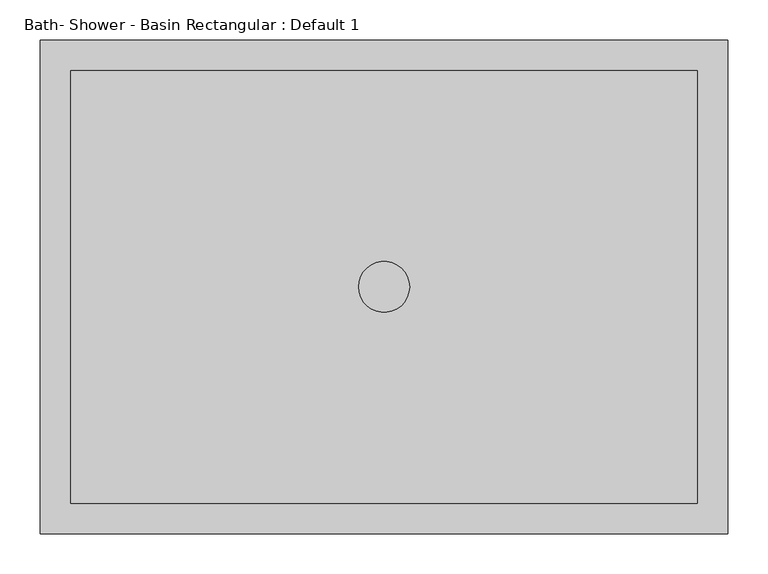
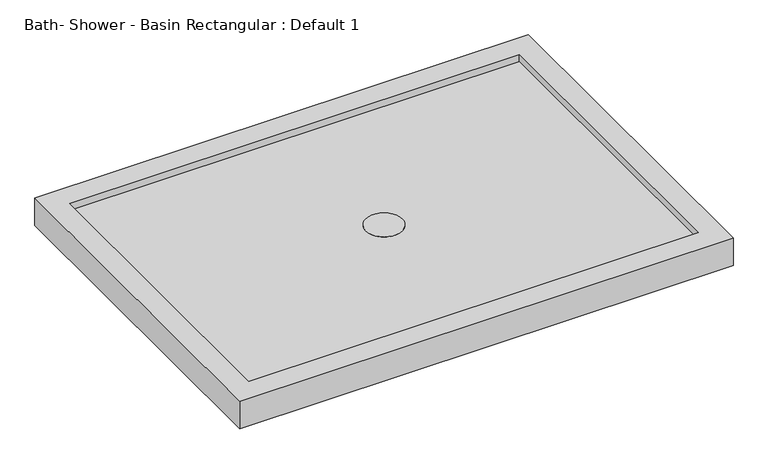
"""IFC4 building model written with IfcOpenShell, lengths in millimetres: flow terminal geometry, Bath- Shower - Basin Rectangular : Default 1."""

from ifc_helpers import new_model, si_unit, point, frame_2d, origin, origin_with_axes, place, context, project, spatial, circle_curve, trimmed, segment, composite_curve, outline, extrude, faceted_brep, source, transform, mapped, element, save


def bath_shower_basin_rectangular_default_1_810ac732(model_context):
    return source(origin(), model_context, "Body", "SolidModel", [
        extrude(outline(composite_curve([segment(trimmed(circle_curve(frame_2d((0.1, 0.15)), 31.75), [point((-31.65, 0.15))], [point((31.85, 0.15))], False, "CARTESIAN"), True, "CONTINUOUS"), segment(trimmed(circle_curve(frame_2d((0.1, 0.15)), 31.75), [point((31.85, 0.15))], [point((-31.65, 0.15))], False, "CARTESIAN"), True, "CONTINUOUS")], self_intersect=False)), origin_with_axes(), (0.0, 0.0, 1.0), 38.1),
        faceted_brep([(428.625, 307.975, 50.8), (-428.625, 307.975, 50.8), (-428.625, -307.975, 50.8), (428.625, -307.975, 50.8), (-390.525, 269.875, 50.8), (390.525, 269.875, 50.8), (390.525, -269.875, 50.8), (-390.525, -269.875, 50.8), (428.625, 307.975, 0.0), (428.625, -307.975, 0.0), (-428.625, -307.975, 0.0), (-428.625, 307.975, 0.0), (390.525, 269.875, 38.1), (-390.525, 269.875, 38.1), (-390.525, -269.875, 38.1), (390.525, -269.875, 38.1)], [[[0, 1, 2, 3], [4, 5, 6, 7]], [[8, 9, 10, 11]], [[1, 0, 8, 11]], [[2, 1, 11, 10]], [[3, 2, 10, 9]], [[0, 3, 9, 8]], [[12, 13, 14, 15]], [[13, 12, 5, 4]], [[14, 13, 4, 7]], [[15, 14, 7, 6]], [[12, 15, 6, 5]]]),
    ])


if __name__ == "__main__":
    model = new_model("IFC4")
    model_context = context("Model", 3, world=origin())
    ifc_project = project(units=[si_unit("LENGTHUNIT", "METRE", prefix="MILLI")], contexts=[model_context])
    site = spatial("IfcSite", under=ifc_project)
    building = spatial("IfcBuilding", under=site)
    placement = place(None, origin())
    bath_shower_basin_rectangular_default_1_shape = bath_shower_basin_rectangular_default_1_810ac732(model_context)
    element("IfcFlowTerminal", 1, ObjectType="Bath- Shower - Basin Rectangular : Default 1", at=placement, inside=building, context=model_context, shape_type="MappedRepresentation", body=[
        mapped(bath_shower_basin_rectangular_default_1_shape, transform((0.0, 0.0, 0.0), x_axis=(1.0, 0.0, 0.0), y_axis=(0.0, 1.0, 0.0), z_axis=(0.0, 0.0, 1.0))),
    ])
    save(model, "model.ifc")
